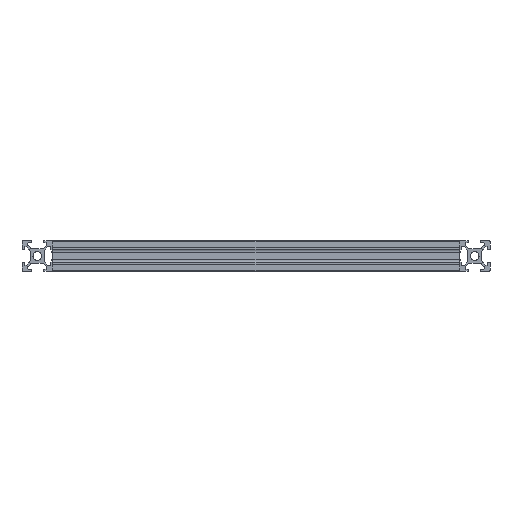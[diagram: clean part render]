
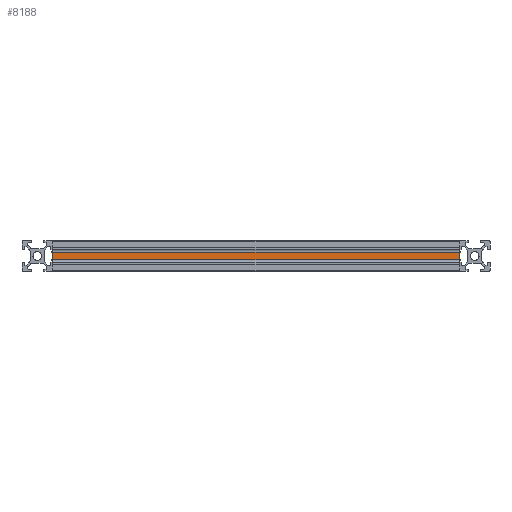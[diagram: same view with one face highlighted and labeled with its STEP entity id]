
A CAD part, front view. The second image highlights one B-rep face of the part: STEP entity #8188.
In plain terms, the highlighted planar face has unit normal (0, -1, 0) as drawn and (0, 0, 1) by its records, which use the part's own axes.
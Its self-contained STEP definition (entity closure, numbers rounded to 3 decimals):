
#247=PLANE('',#9051);
#638=FACE_OUTER_BOUND('',#1066,.T.);
#1066=EDGE_LOOP('',(#7033,#7034,#7035,#7036));
#1748=LINE('',#13449,#2584);
#1798=LINE('',#13599,#2634);
#1799=LINE('',#13601,#2635);
#1800=LINE('',#13602,#2636);
#2584=VECTOR('',#10987,10.);
#2634=VECTOR('',#11135,10.);
#2635=VECTOR('',#11138,10.);
#2636=VECTOR('',#11139,10.);
#3805=VERTEX_POINT('',#13445);
#3807=VERTEX_POINT('',#13448);
#3856=VERTEX_POINT('',#13593);
#3858=VERTEX_POINT('',#13597);
#4897=EDGE_CURVE('',#3807,#3805,#1748,.T.);
#4972=EDGE_CURVE('',#3856,#3858,#1798,.T.);
#4973=EDGE_CURVE('',#3858,#3807,#1799,.T.);
#4974=EDGE_CURVE('',#3805,#3856,#1800,.T.);
#7033=ORIENTED_EDGE('',*,*,#4972,.T.);
#7034=ORIENTED_EDGE('',*,*,#4973,.T.);
#7035=ORIENTED_EDGE('',*,*,#4897,.T.);
#7036=ORIENTED_EDGE('',*,*,#4974,.T.);
#8188=ADVANCED_FACE('',(#638),#247,.F.);
#9051=AXIS2_PLACEMENT_3D('',#13600,#11136,#11137);
#10987=DIRECTION('',(0.,-1.,0.));
#11135=DIRECTION('',(0.,1.,0.));
#11136=DIRECTION('center_axis',(0.,0.,-1.));
#11137=DIRECTION('ref_axis',(-1.,0.,0.));
#11138=DIRECTION('',(-1.,0.,0.));
#11139=DIRECTION('',(1.,0.,0.));
#13445=CARTESIAN_POINT('',(-1.964,-100.,3.5));
#13448=CARTESIAN_POINT('',(-1.964,100.,3.5));
#13449=CARTESIAN_POINT('',(-1.964,0.,3.5));
#13593=CARTESIAN_POINT('',(1.964,-100.,3.5));
#13597=CARTESIAN_POINT('',(1.964,100.,3.5));
#13599=CARTESIAN_POINT('',(1.964,0.,3.5));
#13600=CARTESIAN_POINT('Origin',(2.793,0.,3.5));
#13601=CARTESIAN_POINT('',(3.5,100.,3.5));
#13602=CARTESIAN_POINT('',(0.,-100.,3.5));
